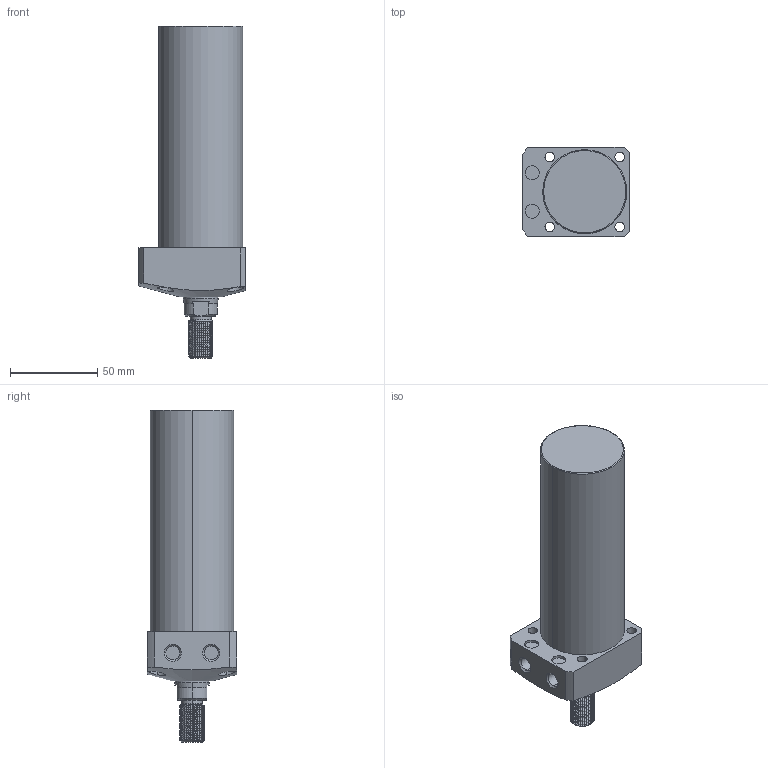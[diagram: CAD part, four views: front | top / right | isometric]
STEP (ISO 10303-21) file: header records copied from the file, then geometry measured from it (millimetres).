
FILE_DESCRIPTION (( 'STEP AP203' ), '1' );
FILE_NAME ('CLL-048CT-100.STEP', '2020-01-08T10:11:03', ( '' ), ( '' ), 'SwSTEP 2.0', 'SolidWorks 2015', '' );
FILE_SCHEMA (( 'CONFIG_CONTROL_DESIGN' ));
Length unit declared in the file: millimetre
Products named in the file (1): CLL-048CT-100
Bounding box: 61 x 51 x 190 mm (x, y, z)
Volume: 308828.6 mm3; surface area: 35171.6 mm2
Topology: 1 solids, 1 shells, 120 faces, 306 edges, 199 vertices
Faces by surface type: cylinder 77, plane 23, cone 16, torus 2, bspline 2
Entity records: 6428 total; most frequent: CARTESIAN_POINT 3667, ORIENTED_EDGE 612, DIRECTION 514, EDGE_CURVE 306, AXIS2_PLACEMENT_3D 204, VERTEX_POINT 199, EDGE_LOOP 139, ADVANCED_FACE 120
